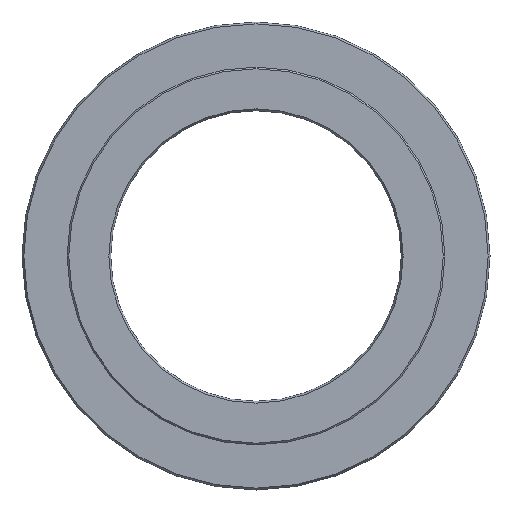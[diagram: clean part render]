
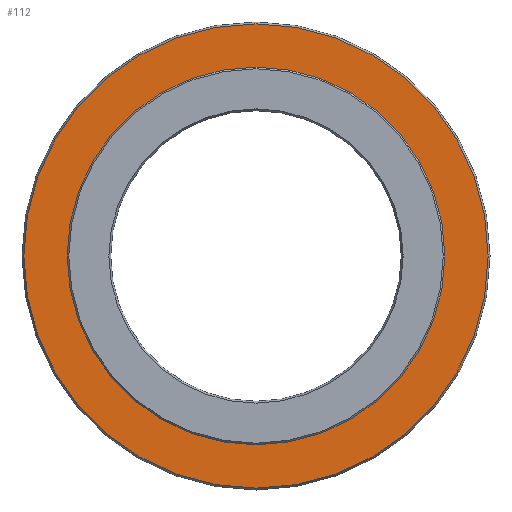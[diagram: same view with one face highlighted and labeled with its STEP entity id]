
A CAD part, left-side view. The second image highlights one B-rep face of the part: STEP entity #112.
In plain terms, the highlighted planar face has unit normal (-1, 0, 0).
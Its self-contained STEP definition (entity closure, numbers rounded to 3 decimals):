
#107=PLANE('',#279);
#112=ADVANCED_FACE('',(#131,#132),#107,.T.);
#131=FACE_BOUND('',#163,.T.);
#132=FACE_BOUND('',#164,.T.);
#163=EDGE_LOOP('',(#195));
#164=EDGE_LOOP('',(#196));
#195=ORIENTED_EDGE('',*,*,#243,.T.);
#196=ORIENTED_EDGE('',*,*,#244,.T.);
#227=VERTEX_POINT('',#379);
#228=VERTEX_POINT('',#381);
#243=EDGE_CURVE('',#227,#227,#259,.T.);
#244=EDGE_CURVE('',#228,#228,#260,.T.);
#259=CIRCLE('',#277,71.923);
#260=CIRCLE('',#278,58.5);
#277=AXIS2_PLACEMENT_3D('',#378,#314,#315);
#278=AXIS2_PLACEMENT_3D('',#380,#316,#317);
#279=AXIS2_PLACEMENT_3D('',#382,#318,#319);
#314=DIRECTION('',(-1.,0.,0.));
#315=DIRECTION('',(0.,0.,1.));
#316=DIRECTION('',(1.,0.,0.));
#317=DIRECTION('',(0.,0.,-1.));
#318=DIRECTION('',(-1.,0.,0.));
#319=DIRECTION('',(0.,0.,1.));
#378=CARTESIAN_POINT('',(0.,0.,0.));
#379=CARTESIAN_POINT('',(0.,0.,71.923));
#380=CARTESIAN_POINT('',(0.,0.,0.));
#381=CARTESIAN_POINT('',(0.,0.,-58.5));
#382=CARTESIAN_POINT('',(0.,72.5,0.));
